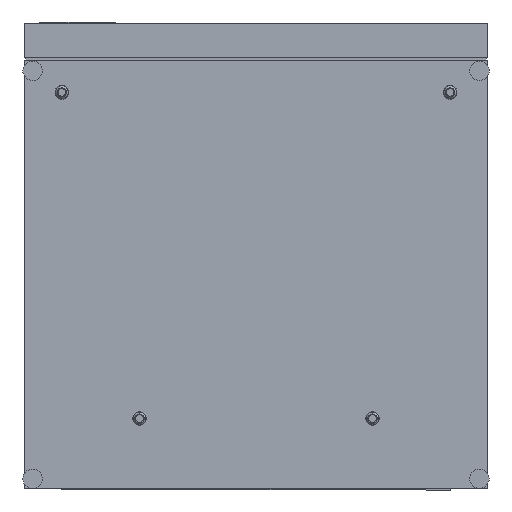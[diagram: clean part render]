
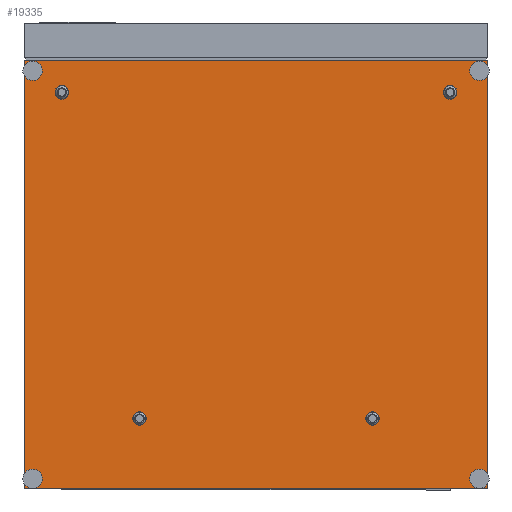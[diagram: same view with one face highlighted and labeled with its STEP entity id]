
A CAD part, front view. The second image highlights one B-rep face of the part: STEP entity #19335.
In plain terms, the highlighted planar face has unit normal (0, -1, 0).
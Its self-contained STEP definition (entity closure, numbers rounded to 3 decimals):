
#970=CIRCLE('',#19615,3.);
#974=CIRCLE('',#19623,3.);
#1139=CIRCLE('',#20370,8.707);
#1142=CIRCLE('',#20376,8.707);
#1145=CIRCLE('',#20382,8.707);
#1148=CIRCLE('',#20388,8.707);
#1169=CIRCLE('',#20433,3.);
#1170=CIRCLE('',#20434,3.);
#1372=FACE_BOUND('',#3662,.T.);
#1373=FACE_BOUND('',#3663,.T.);
#1374=FACE_BOUND('',#3664,.T.);
#1375=FACE_BOUND('',#3665,.T.);
#1376=FACE_BOUND('',#3666,.T.);
#1377=FACE_BOUND('',#3667,.T.);
#1378=FACE_BOUND('',#3668,.T.);
#1379=FACE_BOUND('',#3669,.T.);
#2421=FACE_OUTER_BOUND('',#3661,.T.);
#3661=EDGE_LOOP('',(#16602,#16603,#16604,#16605));
#3662=EDGE_LOOP('',(#16606));
#3663=EDGE_LOOP('',(#16607));
#3664=EDGE_LOOP('',(#16608));
#3665=EDGE_LOOP('',(#16609));
#3666=EDGE_LOOP('',(#16610));
#3667=EDGE_LOOP('',(#16611));
#3668=EDGE_LOOP('',(#16612));
#3669=EDGE_LOOP('',(#16613));
#4384=LINE('',#26896,#6177);
#5452=LINE('',#36316,#7245);
#5454=LINE('',#36319,#7247);
#5455=LINE('',#36321,#7248);
#6177=VECTOR('',#21646,10.);
#7245=VECTOR('',#24266,10.);
#7247=VECTOR('',#24270,10.);
#7248=VECTOR('',#24273,10.);
#8028=VERTEX_POINT('',#26893);
#8029=VERTEX_POINT('',#26895);
#8030=VERTEX_POINT('',#26899);
#8034=VERTEX_POINT('',#26911);
#8941=VERTEX_POINT('',#36283);
#8944=VERTEX_POINT('',#36292);
#8947=VERTEX_POINT('',#36301);
#8950=VERTEX_POINT('',#36310);
#8951=VERTEX_POINT('',#36313);
#8952=VERTEX_POINT('',#36315);
#8977=VERTEX_POINT('',#36410);
#8978=VERTEX_POINT('',#36412);
#9880=EDGE_CURVE('',#8029,#8028,#4384,.T.);
#9882=EDGE_CURVE('',#8030,#8030,#970,.T.);
#9886=EDGE_CURVE('',#8034,#8034,#974,.T.);
#11471=EDGE_CURVE('',#8941,#8941,#1139,.T.);
#11474=EDGE_CURVE('',#8944,#8944,#1142,.T.);
#11477=EDGE_CURVE('',#8947,#8947,#1145,.T.);
#11480=EDGE_CURVE('',#8950,#8950,#1148,.T.);
#11482=EDGE_CURVE('',#8952,#8951,#5452,.T.);
#11484=EDGE_CURVE('',#8028,#8952,#5454,.T.);
#11485=EDGE_CURVE('',#8951,#8029,#5455,.T.);
#11529=EDGE_CURVE('',#8977,#8977,#1169,.T.);
#11530=EDGE_CURVE('',#8978,#8978,#1170,.T.);
#16602=ORIENTED_EDGE('',*,*,#9880,.T.);
#16603=ORIENTED_EDGE('',*,*,#11484,.T.);
#16604=ORIENTED_EDGE('',*,*,#11482,.T.);
#16605=ORIENTED_EDGE('',*,*,#11485,.T.);
#16606=ORIENTED_EDGE('',*,*,#11471,.F.);
#16607=ORIENTED_EDGE('',*,*,#11477,.F.);
#16608=ORIENTED_EDGE('',*,*,#11480,.F.);
#16609=ORIENTED_EDGE('',*,*,#11474,.F.);
#16610=ORIENTED_EDGE('',*,*,#11529,.F.);
#16611=ORIENTED_EDGE('',*,*,#9882,.F.);
#16612=ORIENTED_EDGE('',*,*,#9886,.F.);
#16613=ORIENTED_EDGE('',*,*,#11530,.F.);
#17279=PLANE('',#20432);
#19335=ADVANCED_FACE('',(#2421,#1372,#1373,#1374,#1375,#1376,#1377,#1378,
#1379),#17279,.T.);
#19615=AXIS2_PLACEMENT_3D('',#26900,#21650,#21651);
#19623=AXIS2_PLACEMENT_3D('',#26912,#21666,#21667);
#20370=AXIS2_PLACEMENT_3D('',#36284,#24225,#24226);
#20376=AXIS2_PLACEMENT_3D('',#36293,#24237,#24238);
#20382=AXIS2_PLACEMENT_3D('',#36302,#24249,#24250);
#20388=AXIS2_PLACEMENT_3D('',#36311,#24261,#24262);
#20432=AXIS2_PLACEMENT_3D('',#36409,#24377,#24378);
#20433=AXIS2_PLACEMENT_3D('',#36411,#24379,#24380);
#20434=AXIS2_PLACEMENT_3D('',#36413,#24381,#24382);
#21646=DIRECTION('',(-1.,0.,0.));
#21650=DIRECTION('center_axis',(0.,-1.,0.));
#21651=DIRECTION('ref_axis',(0.632,0.,0.775));
#21666=DIRECTION('center_axis',(0.,-1.,0.));
#21667=DIRECTION('ref_axis',(-0.799,0.,-0.601));
#24225=DIRECTION('center_axis',(0.,-1.,0.));
#24226=DIRECTION('ref_axis',(-1.,0.,0.));
#24237=DIRECTION('center_axis',(0.,-1.,0.));
#24238=DIRECTION('ref_axis',(-1.,0.,0.));
#24249=DIRECTION('center_axis',(0.,-1.,0.));
#24250=DIRECTION('ref_axis',(-1.,0.,0.));
#24261=DIRECTION('center_axis',(0.,-1.,0.));
#24262=DIRECTION('ref_axis',(-1.,0.,0.));
#24266=DIRECTION('',(1.,0.,0.));
#24270=DIRECTION('',(0.,0.,-1.));
#24273=DIRECTION('',(0.,0.,1.));
#24377=DIRECTION('center_axis',(0.,-1.,0.));
#24378=DIRECTION('ref_axis',(1.,0.,0.));
#24379=DIRECTION('center_axis',(0.,-1.,0.));
#24380=DIRECTION('ref_axis',(0.866,0.,-0.499));
#24381=DIRECTION('center_axis',(0.,-1.,0.));
#24382=DIRECTION('ref_axis',(0.156,0.,-0.988));
#26893=CARTESIAN_POINT('',(-312.736,4.836,532.391));
#26895=CARTESIAN_POINT('',(283.664,4.836,532.391));
#26896=CARTESIAN_POINT('',(-162.636,4.836,532.391));
#26899=CARTESIAN_POINT('',(271.268,4.836,-8.633));
#26900=CARTESIAN_POINT('Origin',(273.164,4.836,-6.309));
#26911=CARTESIAN_POINT('',(-299.839,4.836,-4.505));
#26912=CARTESIAN_POINT('Origin',(-302.236,4.836,-6.309));
#36283=CARTESIAN_POINT('',(-255.829,4.836,491.191));
#36284=CARTESIAN_POINT('Origin',(-264.536,4.836,491.191));
#36292=CARTESIAN_POINT('',(244.171,4.836,491.191));
#36293=CARTESIAN_POINT('Origin',(235.464,4.836,491.191));
#36301=CARTESIAN_POINT('',(144.171,4.836,71.191));
#36302=CARTESIAN_POINT('Origin',(135.464,4.836,71.191));
#36310=CARTESIAN_POINT('',(-155.829,4.836,71.191));
#36311=CARTESIAN_POINT('Origin',(-164.536,4.836,71.191));
#36313=CARTESIAN_POINT('',(283.664,4.836,-19.309));
#36315=CARTESIAN_POINT('',(-312.736,4.836,-19.309));
#36316=CARTESIAN_POINT('',(-312.736,4.836,-19.309));
#36319=CARTESIAN_POINT('',(-312.736,4.836,532.391));
#36321=CARTESIAN_POINT('',(283.664,4.836,-19.309));
#36409=CARTESIAN_POINT('Origin',(-14.536,4.836,558.126));
#36410=CARTESIAN_POINT('',(270.565,4.836,520.39));
#36411=CARTESIAN_POINT('Origin',(273.164,4.836,518.891));
#36412=CARTESIAN_POINT('',(-302.704,4.836,521.854));
#36413=CARTESIAN_POINT('Origin',(-302.236,4.836,518.891));
